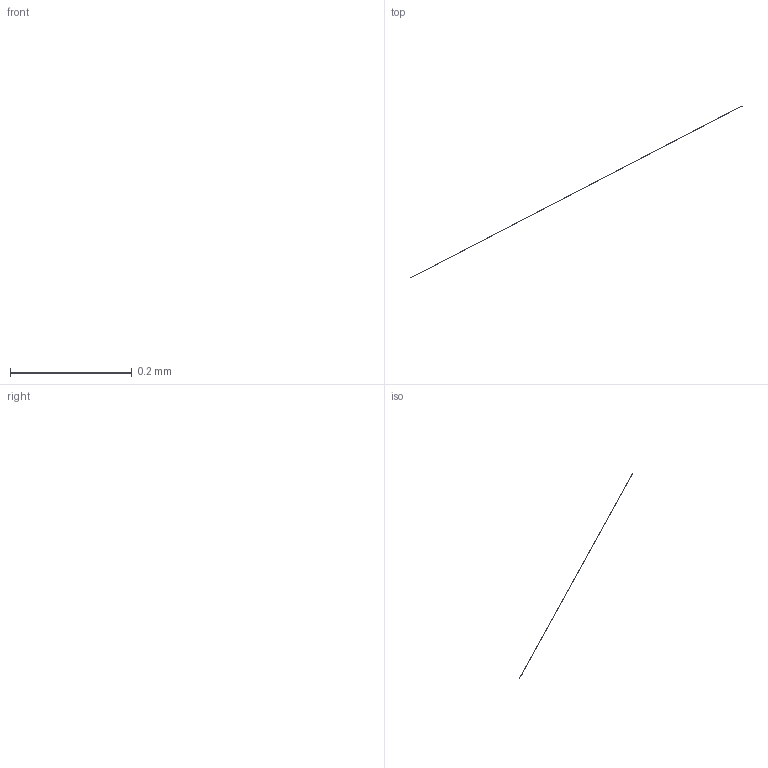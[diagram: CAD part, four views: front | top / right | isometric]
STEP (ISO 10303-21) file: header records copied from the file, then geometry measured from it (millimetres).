
FILE_DESCRIPTION(/* description */ ('STEP AP242 Edition 2','CAx-IF Rec.Pracs.---Representation and Presentation of Product Manufacturing Information (PMI)---4.0---2014-10-13','CAx-IF Rec.Pracs.---3D Tessellated Geometry---0.4---2014-09-14','2;1','CAx-IF Rec.Pracs.---User Defined Attributes---1.5---2016-08-15'),/* implementation_level */ '2;1');
FILE_NAME(/* name */ 'Assembly 1 - Part 84',/* time_stamp */ '2026-03-29T21:14:58Z',/* author */ (''),/* organization */ (''),/* preprocessor_version */ 'ST-DEVELOPER v20',/* originating_system */ 'ONSHAPE BY PTC INC, 1.212',/* authorisation */ ' ');
FILE_SCHEMA (('AP242_MANAGED_MODEL_BASED_3D_ENGINEERING_MIM_LF { 1 0 10303 442 3 1 4 }'));
Length unit declared in the file: metre
Products named in the file (1): Part 84
Bounding box: 0.55 x 0.28 x 0 mm (x, y, z)
Surface area: 0 mm2 (no closed solid volume)
Topology: 0 solids, 1 shells, 1 faces, 0 edges, 0 vertices
Faces by surface type: other 1
Entity records: 31 total; most frequent: DIRECTION 2, SHAPE_REPRESENTATION_RELATIONSHIP 1, TESSELLATED_SHAPE_REPRESENTATION 1, STYLED_ITEM 1, PRESENTATION_STYLE_ASSIGNMENT 1, SURFACE_STYLE_USAGE 1, SURFACE_SIDE_STYLE 1, SURFACE_STYLE_FILL_AREA 1
